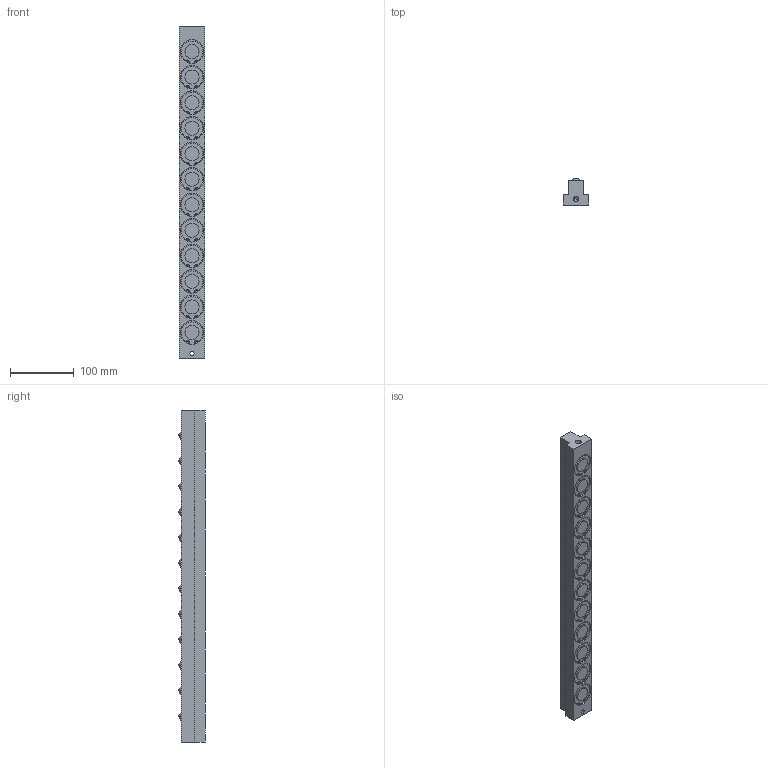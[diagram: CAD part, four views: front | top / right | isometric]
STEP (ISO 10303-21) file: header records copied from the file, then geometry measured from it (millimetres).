
FILE_DESCRIPTION (( 'STEP AP203' ), '1' );
FILE_NAME ('PVL30T-12.STEP', '2015-12-24T08:32:30', ( '' ), ( '' ), 'SwSTEP 2.0', 'SolidWorks 2013', '' );
FILE_SCHEMA (( 'CONFIG_CONTROL_DESIGN' ));
Length unit declared in the file: millimetre
Products named in the file (1): PVL30T-12
Bounding box: 40 x 42 x 520 mm (x, y, z)
Volume: 588138.2 mm3; surface area: 98902.1 mm2
Topology: 1 solids, 1 shells, 394 faces, 1000 edges, 669 vertices
Faces by surface type: cylinder 246, plane 120, sphere 24, cone 4
Entity records: 12307 total; most frequent: DIRECTION 2404, CARTESIAN_POINT 2062, ORIENTED_EDGE 1996, AXIS2_PLACEMENT_3D 1011, EDGE_CURVE 998, VERTEX_POINT 669, CIRCLE 616, EDGE_LOOP 459
